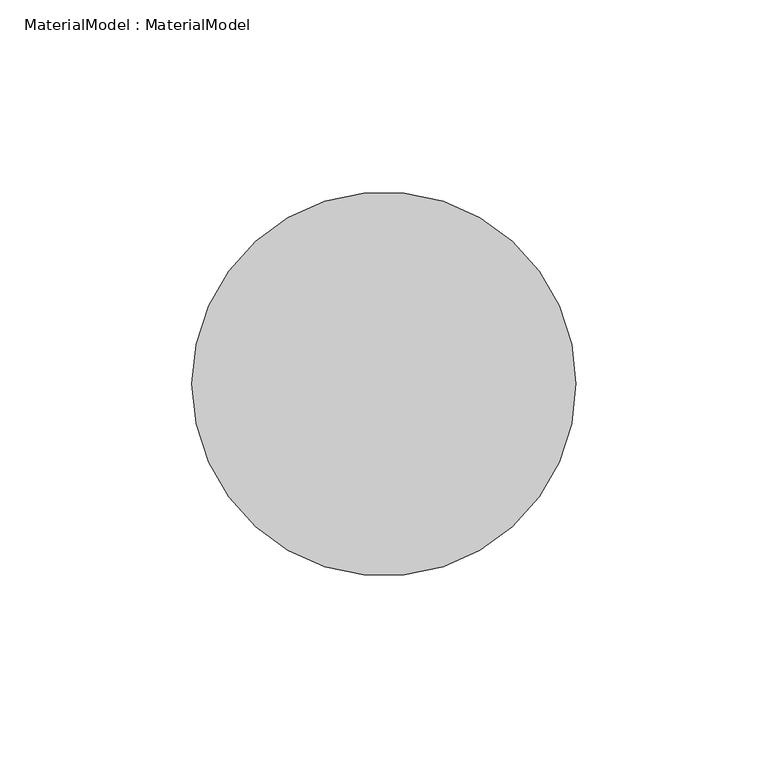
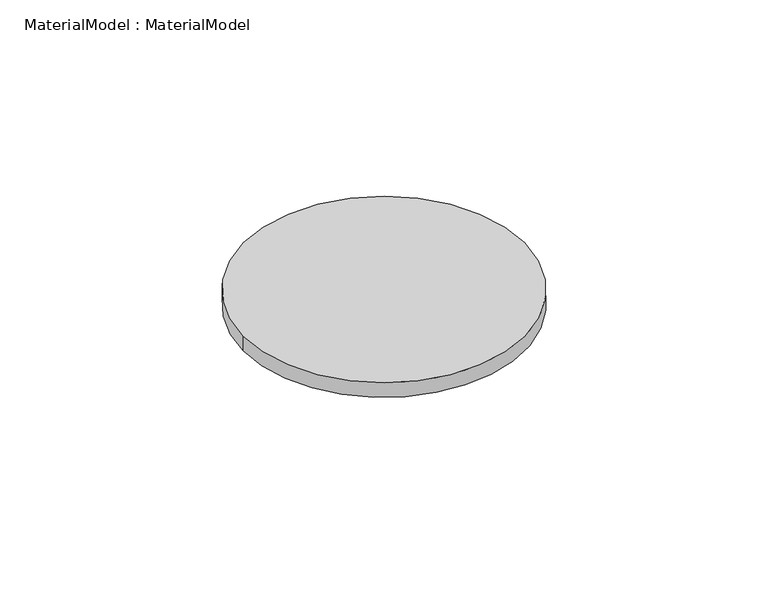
"""IFC4 building model written with IfcOpenShell, lengths in millimetres: proxy geometry, MaterialModel : MaterialModel."""

from ifc_helpers import new_model, si_unit, point, origin, origin_with_axes, origin_2d, place, context, project, spatial, circle_curve, trimmed, segment, composite_curve, outline, extrude, source, transform, mapped, element, save


def materialmodel_materialmodel_59d2b528(model_context):
    return source(origin(), model_context, "Body", "SweptSolid", [
        extrude(outline(composite_curve([segment(trimmed(circle_curve(origin_2d(), 50.0), [point((-50.0, 0.0))], [point((50.0, 0.0))], False, "CARTESIAN"), True, "CONTINUOUS"), segment(trimmed(circle_curve(origin_2d(), 50.0), [point((50.0, 0.0))], [point((-50.0, 0.0))], False, "CARTESIAN"), True, "CONTINUOUS")], self_intersect=False)), origin_with_axes(), (0.0, 0.0, 1.0), 5.5979905),
    ])


if __name__ == "__main__":
    model = new_model("IFC4")
    model_context = context("Model", 3, world=origin())
    ifc_project = project(units=[si_unit("LENGTHUNIT", "METRE", prefix="MILLI")], contexts=[model_context])
    site = spatial("IfcSite", under=ifc_project)
    building = spatial("IfcBuilding", under=site)
    placement = place(None, origin())
    materialmodel_materialmodel_shape = materialmodel_materialmodel_59d2b528(model_context)
    element("IfcBuildingElementProxy", 1, Name="MaterialModel : MaterialModel", ObjectType="MaterialModel : MaterialModel", at=placement, inside=building, context=model_context, shape_type="MappedRepresentation", body=[
        mapped(materialmodel_materialmodel_shape, transform((0.0, 0.0, 0.0), x_axis=(1.0, 0.0, 0.0), y_axis=(0.0, 1.0, 0.0), z_axis=(0.0, 0.0, 1.0))),
    ])
    save(model, "model.ifc")
